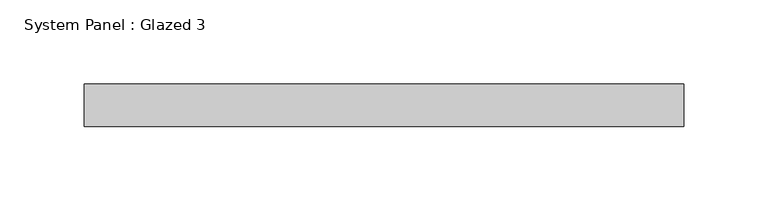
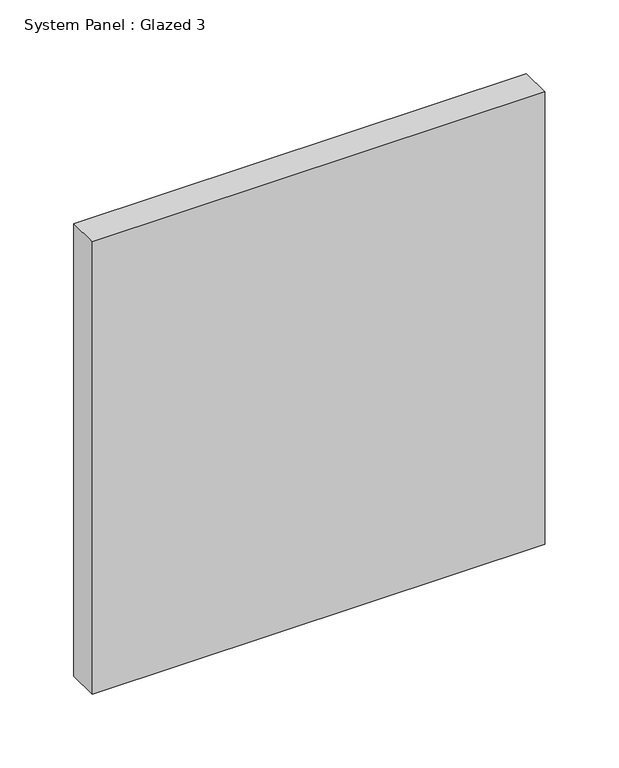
"""IFC4 building model written with IfcOpenShell, lengths in millimetres: plate geometry, System Panel : Glazed 3."""

from ifc_helpers import new_model, si_unit, origin, origin_with_axes, place, context, project, spatial, polyline, outline, extrude, source, transform, mapped, element, save


def system_panel_glazed_3_6ecbbff0(model_context):
    return source(origin(), model_context, "Body", "SweptSolid", [
        extrude(outline(polyline([(177.5, -12.5), (-177.5, -12.5), (-177.5, 12.5), (177.5, 12.5), (177.5, -12.5)])), origin_with_axes(), (0.0, 0.0, 1.0), 375.0),
    ])


if __name__ == "__main__":
    model = new_model("IFC4")
    model_context = context("Model", 3, world=origin())
    ifc_project = project(units=[si_unit("LENGTHUNIT", "METRE", prefix="MILLI")], contexts=[model_context])
    site = spatial("IfcSite", under=ifc_project)
    building = spatial("IfcBuilding", under=site)
    placement = place(None, origin())
    system_panel_glazed_3_shape = system_panel_glazed_3_6ecbbff0(model_context)
    element("IfcPlate", 1, ObjectType="System Panel : Glazed 3", at=placement, inside=building, context=model_context, shape_type="MappedRepresentation", body=[
        mapped(system_panel_glazed_3_shape, transform((0.0, 0.0, 0.0), x_axis=(1.0, 0.0, 0.0), y_axis=(0.0, 1.0, 0.0), z_axis=(0.0, 0.0, 1.0))),
    ])
    save(model, "model.ifc")
